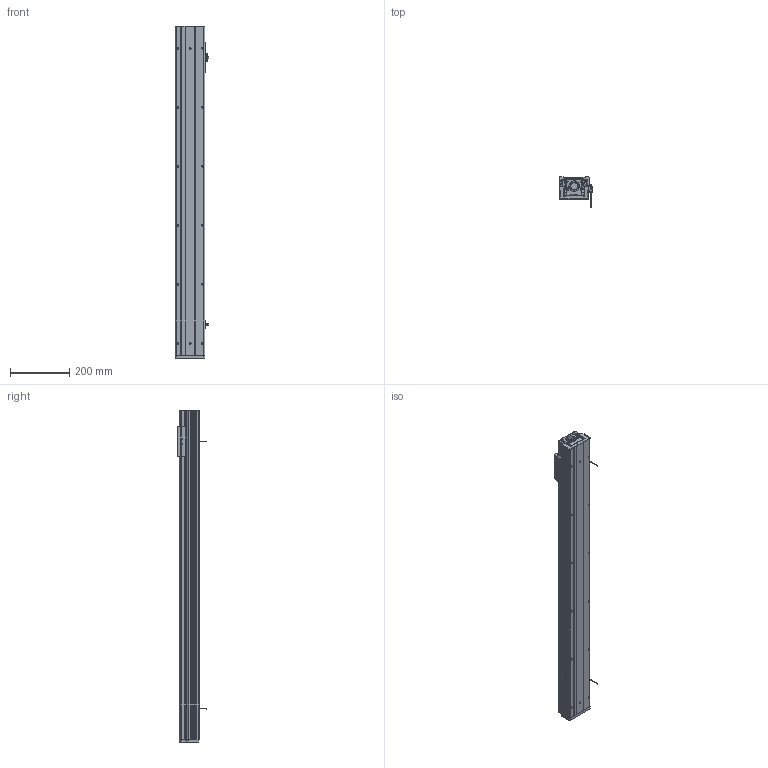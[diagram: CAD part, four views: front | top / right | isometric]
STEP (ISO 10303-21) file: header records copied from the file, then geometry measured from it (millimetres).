
FILE_DESCRIPTION (( 'STEP AP203' ), '1' );
FILE_NAME ('CTHM10-S900-O-BC.STEP', '2019-12-18T01:06:45', ( '微软用户' ), ( '微软中国' ), 'SwSTEP 2.0', 'SolidWorks 2017', '' );
FILE_SCHEMA (( 'CONFIG_CONTROL_DESIGN' ));
Length unit declared in the file: millimetre
Products named in the file (11): 覜茼え; 遣喳蝶15x12x8; CTHM10菁釱(200); EE-SX672-BR; CTHM10痄雄釱(党蜊); CTHM10-S900-O-BC; CTHM10盓傅耜; CTHM10固定侧自制轴承座; CTHM10裔啣(100); CTHM10傷裔(祥結裔啣); CTHM10綴傷裔
Assembly tree (14 placements, depth 2):
  CTHM10-S900-O-BC
    CTHM10菁釱(200)
    CTHM10痄雄釱(党蜊)
    CTHM10盓傅耜
    CTHM10固定侧自制轴承座
    CTHM10裔啣(100)
    CTHM10傷裔(祥結裔啣)
    CTHM10綴傷裔
    覜茼え
    遣喳蝶15x12x8  x4
    EE-SX672-BR  x2
Bounding box: 114.7 x 100.2 x 1125 mm (x, y, z)
Volume: 2839375.2 mm3; surface area: 948253.5 mm2
Topology: 14 solids, 14 shells, 960 faces, 2722 edges, 1776 vertices
Faces by surface type: cylinder 517, plane 399, cone 44
Entity records: 32565 total; most frequent: CARTESIAN_POINT 7857, DIRECTION 4964, ORIENTED_EDGE 4916, EDGE_CURVE 2458, AXIS2_PLACEMENT_3D 1821, VERTEX_POINT 1624, LINE 1322, VECTOR 1322
